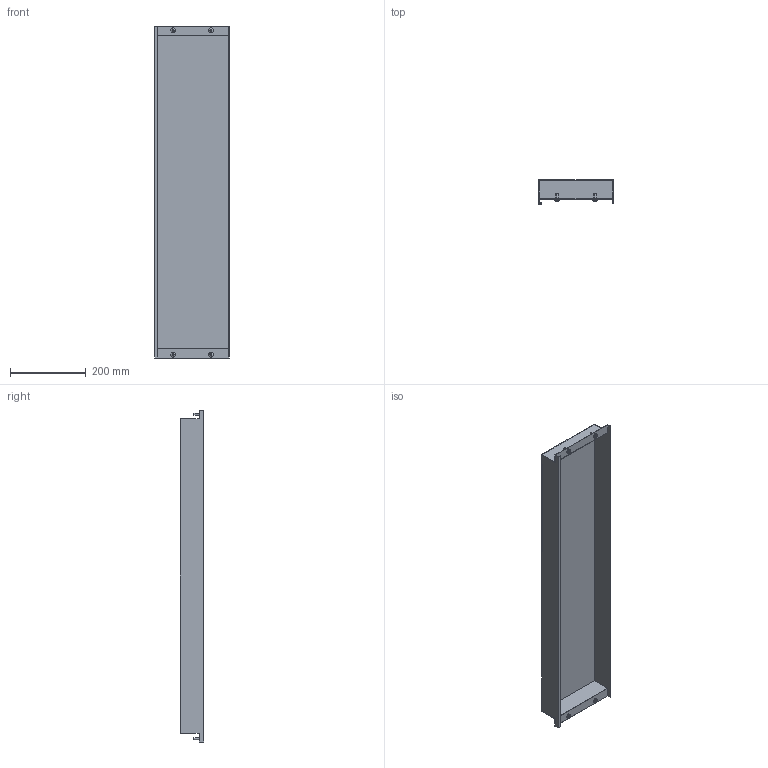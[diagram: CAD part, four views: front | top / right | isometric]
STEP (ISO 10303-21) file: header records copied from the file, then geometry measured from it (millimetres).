
FILE_DESCRIPTION (( 'STEP AP214' ), '1' );
FILE_NAME ('FO-00-PVSU-020-100 Ïëàñòðîí âíóòðåííèé óãëóáëåííûé 200õ1000õ50.STEP', '2025-09-30T08:30:41', ( '' ), ( '' ), 'SwSTEP 2.0', 'SolidWorks 2023', '' );
FILE_SCHEMA (( 'AUTOMOTIVE_DESIGN' ));
Length unit declared in the file: millimetre
Products named in the file (3): Винты М6х16 20-80; FO-00-PVSU-020-100 Пластрон внутренний углубленный 200х1000х50
Assembly tree (3 placements, depth 2):
  FO-00-PVSU-020-100 Пластрон внутренний углубленный 200х1000х50
    FO-00-PVSU-020-100 Пластрон внутренний углубленный 200х1000х50
    Винты М6х16 20-80  x2
Bounding box: 198 x 62.5 x 879 mm (x, y, z)
Volume: 422713.3 mm3; surface area: 605238.6 mm2
Topology: 5 solids, 5 shells, 150 faces, 392 edges, 256 vertices
Faces by surface type: cylinder 88, plane 42, cone 12, bspline 8
Entity records: 3233 total; most frequent: CARTESIAN_POINT 724, ORIENTED_EDGE 512, DIRECTION 500, EDGE_CURVE 256, AXIS2_PLACEMENT_3D 180, VERTEX_POINT 168, LINE 140, VECTOR 140
